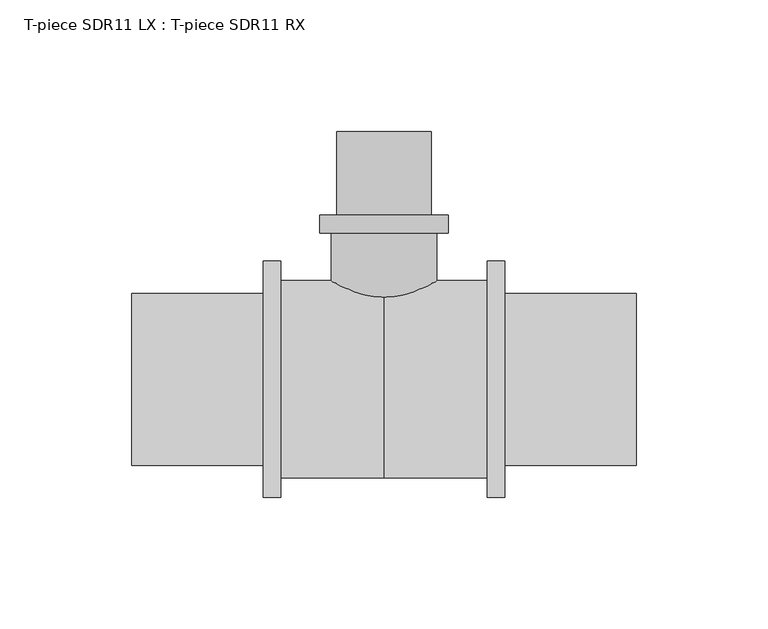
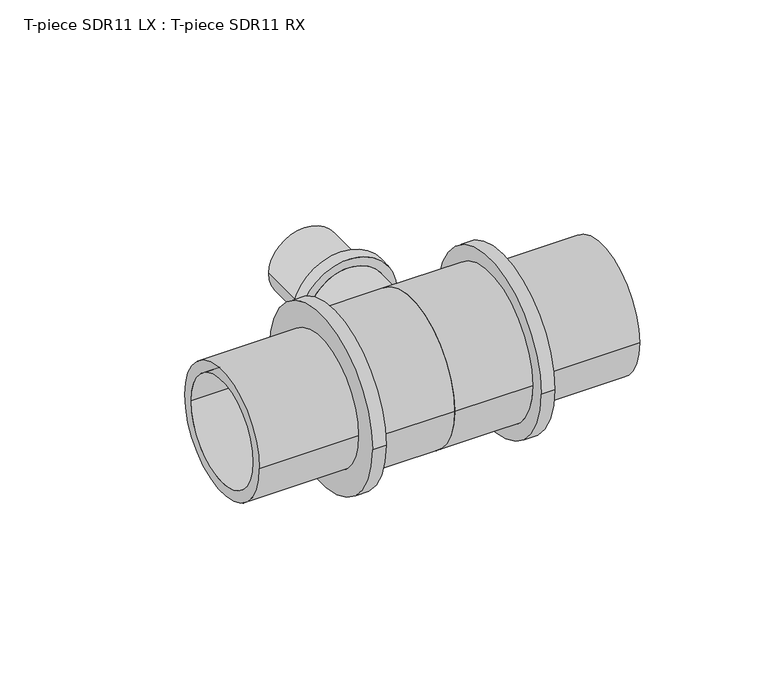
"""IFC4 building model written with IfcOpenShell, lengths in millimetres: pipe fitting geometry, T-piece SDR11 LX : T-piece SDR11 RX."""

from ifc_helpers import new_model, si_unit, point, frame, origin, place, context, project, spatial, polyline, circle_curve, ellipse_curve, trimmed, source, transform, mapped, element, save
from ifc_brep_helpers import plane_surface, cylinder_surface, revolved_surface, advanced_brep


def t_piece_sdr11_lx_t_piece_sdr11_rx_5838618a(model_context):
    return source(origin(), model_context, "Body", "AdvancedBrep", [
        advanced_brep(
        [(20.0, 1.425925, 0.0), (-20.0, 1.425925, 0.0), (-20.0, 55.7, 0.0), (20.0, 55.7, 0.0), (13.5, 94.3, 0.0), (-13.5, 94.3, 0.0), (-13.5, 0.0, 0.0), (13.5, 0.0, 0.0), (18.0, 62.4, 0.0), (-18.0, 62.4, 0.0), (-18.0, 94.3, 0.0), (18.0, 94.3, 0.0), (24.5, 55.7, 0.0), (-24.5, 55.7, 0.0), (-24.5, 62.4, 0.0), (24.5, 62.4, 0.0)],
        [
            (0, 1, circle_curve(frame((0.0, 1.425925, 0.0), z_axis=(0.0, 1.0, 0.0), x_axis=(-1.0, 0.0, 0.0)), 20.0)),
            (1, 2),
            (2, 3, circle_curve(frame((0.0, 55.7, 0.0), z_axis=(0.0, -1.0, 0.0), x_axis=(-1.0, 0.0, 0.0)), 20.0)),
            (3, 0),
            (4, 5, circle_curve(frame((0.0, 94.3, 0.0), z_axis=(0.0, 1.0, 0.0), x_axis=(-1.0, 0.0, 0.0)), 13.5)),
            (5, 6),
            (6, 7, circle_curve(frame((0.0, 0.0, 0.0), z_axis=(0.0, -1.0, 0.0), x_axis=(-1.0, 0.0, 0.0)), 13.5)),
            (7, 4),
            (8, 9, circle_curve(frame((0.0, 62.4, 0.0), z_axis=(0.0, 1.0, 0.0), x_axis=(-1.0, 0.0, 0.0)), 18.0)),
            (9, 10),
            (10, 11, circle_curve(frame((0.0, 94.3, 0.0), z_axis=(0.0, -1.0, 0.0), x_axis=(-1.0, 0.0, 0.0)), 18.0)),
            (11, 8),
            (12, 13, circle_curve(frame((0.0, 55.7, 0.0), z_axis=(0.0, 1.0, 0.0), x_axis=(-1.0, 0.0, 0.0)), 24.5)),
            (13, 14),
            (14, 15, circle_curve(frame((0.0, 62.4, 0.0), z_axis=(0.0, -1.0, 0.0), x_axis=(-1.0, 0.0, 0.0)), 24.5)),
            (15, 12),
            (12, 13, circle_curve(frame((0.0, 55.7, 0.0), z_axis=(0.0, -1.0, 0.0), x_axis=(1.0, 0.0, 0.0)), 24.5)),
            (2, 3, circle_curve(frame((0.0, 55.7, 0.0), z_axis=(0.0, 1.0, 0.0), x_axis=(1.0, 0.0, 0.0)), 20.0)),
            (1, 0, circle_curve(frame((0.0, 1.425925, 0.0), z_axis=(0.0, 1.0, 0.0), x_axis=(1.0, 0.0, 0.0)), 20.0)),
            (5, 4, circle_curve(frame((0.0, 94.3, 0.0), z_axis=(0.0, 1.0, 0.0), x_axis=(1.0, 0.0, 0.0)), 13.5)),
            (7, 6, circle_curve(frame((0.0, 0.0, 0.0), z_axis=(0.0, -1.0, 0.0), x_axis=(1.0, 0.0, 0.0)), 13.5)),
            (10, 11, circle_curve(frame((0.0, 94.3, 0.0), z_axis=(0.0, 1.0, 0.0), x_axis=(1.0, 0.0, 0.0)), 18.0)),
            (9, 8, circle_curve(frame((0.0, 62.4, 0.0), z_axis=(0.0, 1.0, 0.0), x_axis=(1.0, 0.0, 0.0)), 18.0)),
            (14, 15, circle_curve(frame((0.0, 62.4, 0.0), z_axis=(0.0, 1.0, 0.0), x_axis=(1.0, 0.0, 0.0)), 24.5)),
            (6, 1, circle_curve(frame((-8.7462802, 37.197475, 0.0), z_axis=(0.0, 0.0, -1.0), x_axis=(0.0, -1.0, 0.0)), 37.5)),
            (0, 7, circle_curve(frame((8.7462802, 37.197475, 0.0), z_axis=(0.0, 0.0, -1.0), x_axis=(0.0, -1.0, 0.0)), 37.5)),
        ],
        [
            cylinder_surface(frame((0.0, 0.0, 0.0), z_axis=(0.0, -1.0, 0.0), x_axis=(-1.0, 0.0, 0.0)), 20.0),
            revolved_surface(polyline([(-13.5, 0.0, 0.0), (-13.5, 94.3, 0.0)]), (0.0, 0.0, 0.0), (0.0, -1.0, 0.0)),
            cylinder_surface(frame((0.0, 0.0, 0.0), z_axis=(0.0, -1.0, 0.0), x_axis=(-1.0, 0.0, 0.0)), 18.0),
            cylinder_surface(frame((0.0, 0.0, 0.0), z_axis=(0.0, -1.0, 0.0), x_axis=(-1.0, 0.0, 0.0)), 24.5),
            plane_surface(frame((0.0, 55.7, 0.0), z_axis=(0.0, -1.0, 0.0), x_axis=(1.0, 0.0, 0.0))),
            cylinder_surface(frame((0.0, 0.0, 0.0), z_axis=(0.0, -1.0, 0.0), x_axis=(1.0, 0.0, 0.0)), 20.0),
            revolved_surface(polyline([(13.5, 0.0, 0.0), (13.5, 94.3, 0.0)]), (0.0, 0.0, 0.0), (0.0, -1.0, 0.0)),
            plane_surface(frame((0.0, 94.3, 0.0), z_axis=(0.0, 1.0, 0.0), x_axis=(1.0, 0.0, 0.0))),
            cylinder_surface(frame((0.0, 0.0, 0.0), z_axis=(0.0, -1.0, 0.0), x_axis=(1.0, 0.0, 0.0)), 18.0),
            plane_surface(frame((0.0, 62.4, 0.0), z_axis=(0.0, 1.0, 0.0), x_axis=(1.0, 0.0, 0.0))),
            cylinder_surface(frame((0.0, 0.0, 0.0), z_axis=(0.0, -1.0, 0.0), x_axis=(1.0, 0.0, 0.0)), 24.5),
            revolved_surface(trimmed(ellipse_curve(frame((-8.7462802, 37.197475, 0.0), z_axis=(0.0, 0.0, 1.0), x_axis=(0.0, -1.0, 0.0)), 37.5, 37.5), [point((-20.0, 1.425925, 0.0))], [point((-13.5, 0.0, 0.0))], True, "CARTESIAN"), (0.0, 0.0, 0.0), (0.0, -1.0, 0.0)),
            revolved_surface(trimmed(ellipse_curve(frame((8.7462802, 37.197475, 0.0), z_axis=(0.0, 0.0, -1.0), x_axis=(0.0, -1.0, 0.0)), 37.5, 37.5), [point((20.0, 1.425925, 0.0))], [point((13.5, 0.0, 0.0))], True, "CARTESIAN"), (0.0, 0.0, 0.0), (0.0, -1.0, 0.0)),
        ],
        [
            (0, [[1, 2, 3, 4]]),
            (1, [[5, 6, 7, 8]]),
            (2, [[9, 10, 11, 12]]),
            (3, [[13, 14, 15, 16]]),
            (4, [[17, -13], [18, -3]]),
            (5, [[19, -4, -18, -2]]),
            (6, [[20, -8, 21, -6]]),
            (7, [[22, -11], [-20, -5]]),
            (8, [[23, -12, -22, -10]]),
            (9, [[24, -15], [-23, -9]]),
            (10, [[-17, -16, -24, -14]]),
            (11, [[-7, 25, -1, 26]]),
            (12, [[-21, -26, -19, -25]]),
        ],
    ),
        advanced_brep(
        [(39.2, 37.5, 0.0), (39.2, -37.5, 0.0), (0.0, -37.5, 0.0), (0.0, 37.5, 0.0), (0.0, 27.0, 0.0), (0.0, -27.0, 0.0), (96.0, -27.0, 0.0), (96.0, 27.0, 0.0), (96.0, 32.7, 0.0), (96.0, -32.7, 0.0), (46.0, -32.7, 0.0), (46.0, 32.7, 0.0), (46.0, 45.0, 0.0), (46.0, -45.0, 0.0), (39.2, -45.0, 0.0), (39.2, 45.0, 0.0)],
        [
            (0, 1, circle_curve(frame((39.2, 0.0, 0.0), z_axis=(-1.0, 0.0, 0.0), x_axis=(0.0, -1.0, 0.0)), 37.5)),
            (1, 2),
            (2, 3, circle_curve(frame((0.0, 0.0, 0.0), z_axis=(1.0, 0.0, 0.0), x_axis=(0.0, -1.0, 0.0)), 37.5)),
            (3, 0),
            (4, 5, circle_curve(frame((0.0, 0.0, 0.0), z_axis=(-1.0, 0.0, 0.0), x_axis=(0.0, -1.0, 0.0)), 27.0)),
            (5, 6),
            (6, 7, circle_curve(frame((96.0, 0.0, 0.0), z_axis=(1.0, 0.0, 0.0), x_axis=(0.0, -1.0, 0.0)), 27.0)),
            (7, 4),
            (8, 9, circle_curve(frame((96.0, 0.0, 0.0), z_axis=(-1.0, 0.0, 0.0), x_axis=(0.0, -1.0, 0.0)), 32.7)),
            (9, 10),
            (10, 11, circle_curve(frame((46.0, 0.0, 0.0), z_axis=(1.0, 0.0, 0.0), x_axis=(0.0, -1.0, 0.0)), 32.7)),
            (11, 8),
            (12, 13, circle_curve(frame((46.0, 0.0, 0.0), z_axis=(-1.0, 0.0, 0.0), x_axis=(0.0, -1.0, 0.0)), 45.0)),
            (13, 14),
            (14, 15, circle_curve(frame((39.2, 0.0, 0.0), z_axis=(1.0, 0.0, 0.0), x_axis=(0.0, -1.0, 0.0)), 45.0)),
            (15, 12),
            (14, 15, circle_curve(frame((39.2, 0.0, 0.0), z_axis=(-1.0, 0.0, 0.0), x_axis=(0.0, 1.0, 0.0)), 45.0)),
            (0, 1, circle_curve(frame((39.2, 0.0, 0.0), z_axis=(1.0, 0.0, 0.0), x_axis=(0.0, 1.0, 0.0)), 37.5)),
            (3, 2, circle_curve(frame((0.0, 0.0, 0.0), z_axis=(1.0, 0.0, 0.0), x_axis=(0.0, 1.0, 0.0)), 37.5)),
            (4, 5, circle_curve(frame((0.0, 0.0, 0.0), z_axis=(1.0, 0.0, 0.0), x_axis=(0.0, 1.0, 0.0)), 27.0)),
            (7, 6, circle_curve(frame((96.0, 0.0, 0.0), z_axis=(1.0, 0.0, 0.0), x_axis=(0.0, 1.0, 0.0)), 27.0)),
            (8, 9, circle_curve(frame((96.0, 0.0, 0.0), z_axis=(1.0, 0.0, 0.0), x_axis=(0.0, 1.0, 0.0)), 32.7)),
            (11, 10, circle_curve(frame((46.0, 0.0, 0.0), z_axis=(1.0, 0.0, 0.0), x_axis=(0.0, 1.0, 0.0)), 32.7)),
            (12, 13, circle_curve(frame((46.0, 0.0, 0.0), z_axis=(1.0, 0.0, 0.0), x_axis=(0.0, 1.0, 0.0)), 45.0)),
        ],
        [
            cylinder_surface(frame((0.0, 0.0, 0.0), z_axis=(1.0, 0.0, 0.0), x_axis=(0.0, -1.0, 0.0)), 37.5),
            revolved_surface(polyline([(96.0, -27.0, 0.0), (0.0, -27.0, 0.0)]), (0.0, 0.0, 0.0), (1.0, 0.0, 0.0)),
            cylinder_surface(frame((0.0, 0.0, 0.0), z_axis=(1.0, 0.0, 0.0), x_axis=(0.0, -1.0, 0.0)), 32.7),
            cylinder_surface(frame((0.0, 0.0, 0.0), z_axis=(1.0, 0.0, 0.0), x_axis=(0.0, -1.0, 0.0)), 45.0),
            plane_surface(frame((39.2, 0.0, 0.0), z_axis=(-1.0, 0.0, 0.0), x_axis=(0.0, 1.0, 0.0))),
            cylinder_surface(frame((0.0, 0.0, 0.0), z_axis=(1.0, 0.0, 0.0), x_axis=(0.0, 1.0, 0.0)), 37.5),
            plane_surface(frame((0.0, 0.0, 0.0), z_axis=(-1.0, 0.0, 0.0), x_axis=(0.0, 1.0, 0.0))),
            revolved_surface(polyline([(96.0, 27.0, 0.0), (0.0, 27.0, 0.0)]), (0.0, 0.0, 0.0), (1.0, 0.0, 0.0)),
            plane_surface(frame((96.0, 0.0, 0.0), z_axis=(1.0, 0.0, 0.0), x_axis=(0.0, 1.0, 0.0))),
            cylinder_surface(frame((0.0, 0.0, 0.0), z_axis=(1.0, 0.0, 0.0), x_axis=(0.0, 1.0, 0.0)), 32.7),
            plane_surface(frame((46.0, 0.0, 0.0), z_axis=(1.0, 0.0, 0.0), x_axis=(0.0, 1.0, 0.0))),
            cylinder_surface(frame((0.0, 0.0, 0.0), z_axis=(1.0, 0.0, 0.0), x_axis=(0.0, 1.0, 0.0)), 45.0),
        ],
        [
            (0, [[1, 2, 3, 4]]),
            (1, [[5, 6, 7, 8]]),
            (2, [[9, 10, 11, 12]]),
            (3, [[13, 14, 15, 16]]),
            (4, [[17, -15], [18, -1]]),
            (5, [[-18, -4, 19, -2]]),
            (6, [[-19, -3], [20, -5]]),
            (7, [[-20, -8, 21, -6]]),
            (8, [[22, -9], [-21, -7]]),
            (9, [[-22, -12, 23, -10]]),
            (10, [[24, -13], [-23, -11]]),
            (11, [[-24, -16, -17, -14]]),
        ],
    ),
        advanced_brep(
        [(0.0, 37.5, 0.0), (0.0, -37.5, 0.0), (-39.2, -37.5, 0.0), (-39.2, 37.5, 0.0), (-96.0, 27.0, 0.0), (-96.0, -27.0, 0.0), (0.0, -27.0, 0.0), (0.0, 27.0, 0.0), (-46.0, 32.7, 0.0), (-46.0, -32.7, 0.0), (-96.0, -32.7, 0.0), (-96.0, 32.7, 0.0), (-39.2, 45.0, 0.0), (-39.2, -45.0, 0.0), (-46.0, -45.0, 0.0), (-46.0, 45.0, 0.0)],
        [
            (0, 1, circle_curve(frame((0.0, 0.0, 0.0), z_axis=(-1.0, 0.0, 0.0), x_axis=(0.0, -1.0, 0.0)), 37.5)),
            (1, 2),
            (2, 3, circle_curve(frame((-39.2, 0.0, 0.0), z_axis=(1.0, 0.0, 0.0), x_axis=(0.0, -1.0, 0.0)), 37.5)),
            (3, 0),
            (4, 5, circle_curve(frame((-96.0, 0.0, 0.0), z_axis=(-1.0, 0.0, 0.0), x_axis=(0.0, -1.0, 0.0)), 27.0)),
            (5, 6),
            (6, 7, circle_curve(frame((0.0, 0.0, 0.0), z_axis=(1.0, 0.0, 0.0), x_axis=(0.0, -1.0, 0.0)), 27.0)),
            (7, 4),
            (8, 9, circle_curve(frame((-46.0, 0.0, 0.0), z_axis=(-1.0, 0.0, 0.0), x_axis=(0.0, -1.0, 0.0)), 32.7)),
            (9, 10),
            (10, 11, circle_curve(frame((-96.0, 0.0, 0.0), z_axis=(1.0, 0.0, 0.0), x_axis=(0.0, -1.0, 0.0)), 32.7)),
            (11, 8),
            (12, 13, circle_curve(frame((-39.2, 0.0, 0.0), z_axis=(-1.0, 0.0, 0.0), x_axis=(0.0, -1.0, 0.0)), 45.0)),
            (13, 14),
            (14, 15, circle_curve(frame((-46.0, 0.0, 0.0), z_axis=(1.0, 0.0, 0.0), x_axis=(0.0, -1.0, 0.0)), 45.0)),
            (15, 12),
            (12, 13, circle_curve(frame((-39.2, 0.0, 0.0), z_axis=(1.0, 0.0, 0.0), x_axis=(0.0, 1.0, 0.0)), 45.0)),
            (2, 3, circle_curve(frame((-39.2, 0.0, 0.0), z_axis=(-1.0, 0.0, 0.0), x_axis=(0.0, 1.0, 0.0)), 37.5)),
            (1, 0, circle_curve(frame((0.0, 0.0, 0.0), z_axis=(-1.0, 0.0, 0.0), x_axis=(0.0, 1.0, 0.0)), 37.5)),
            (6, 7, circle_curve(frame((0.0, 0.0, 0.0), z_axis=(-1.0, 0.0, 0.0), x_axis=(0.0, 1.0, 0.0)), 27.0)),
            (5, 4, circle_curve(frame((-96.0, 0.0, 0.0), z_axis=(-1.0, 0.0, 0.0), x_axis=(0.0, 1.0, 0.0)), 27.0)),
            (10, 11, circle_curve(frame((-96.0, 0.0, 0.0), z_axis=(-1.0, 0.0, 0.0), x_axis=(0.0, 1.0, 0.0)), 32.7)),
            (9, 8, circle_curve(frame((-46.0, 0.0, 0.0), z_axis=(-1.0, 0.0, 0.0), x_axis=(0.0, 1.0, 0.0)), 32.7)),
            (14, 15, circle_curve(frame((-46.0, 0.0, 0.0), z_axis=(-1.0, 0.0, 0.0), x_axis=(0.0, 1.0, 0.0)), 45.0)),
        ],
        [
            cylinder_surface(frame((0.0, 0.0, 0.0), z_axis=(1.0, 0.0, 0.0), x_axis=(0.0, -1.0, 0.0)), 37.5),
            revolved_surface(polyline([(0.0, -27.0, 0.0), (-96.0, -27.0, 0.0)]), (0.0, 0.0, 0.0), (1.0, 0.0, 0.0)),
            cylinder_surface(frame((0.0, 0.0, 0.0), z_axis=(1.0, 0.0, 0.0), x_axis=(0.0, -1.0, 0.0)), 32.7),
            cylinder_surface(frame((0.0, 0.0, 0.0), z_axis=(1.0, 0.0, 0.0), x_axis=(0.0, -1.0, 0.0)), 45.0),
            plane_surface(frame((-39.2, 0.0, 0.0), z_axis=(1.0, 0.0, 0.0), x_axis=(0.0, 1.0, 0.0))),
            cylinder_surface(frame((0.0, 0.0, 0.0), z_axis=(1.0, 0.0, 0.0), x_axis=(0.0, 1.0, 0.0)), 37.5),
            plane_surface(frame((0.0, 0.0, 0.0), z_axis=(1.0, 0.0, 0.0), x_axis=(0.0, 1.0, 0.0))),
            revolved_surface(polyline([(0.0, 27.0, 0.0), (-96.0, 27.0, 0.0)]), (0.0, 0.0, 0.0), (1.0, 0.0, 0.0)),
            plane_surface(frame((-96.0, 0.0, 0.0), z_axis=(-1.0, 0.0, 0.0), x_axis=(0.0, 1.0, 0.0))),
            cylinder_surface(frame((0.0, 0.0, 0.0), z_axis=(1.0, 0.0, 0.0), x_axis=(0.0, 1.0, 0.0)), 32.7),
            plane_surface(frame((-46.0, 0.0, 0.0), z_axis=(-1.0, 0.0, 0.0), x_axis=(0.0, 1.0, 0.0))),
            cylinder_surface(frame((0.0, 0.0, 0.0), z_axis=(1.0, 0.0, 0.0), x_axis=(0.0, 1.0, 0.0)), 45.0),
        ],
        [
            (0, [[1, 2, 3, 4]]),
            (1, [[5, 6, 7, 8]]),
            (2, [[9, 10, 11, 12]]),
            (3, [[13, 14, 15, 16]]),
            (4, [[17, -13], [18, -3]]),
            (5, [[19, -4, -18, -2]]),
            (6, [[-19, -1], [20, -7]]),
            (7, [[21, -8, -20, -6]]),
            (8, [[22, -11], [-21, -5]]),
            (9, [[23, -12, -22, -10]]),
            (10, [[24, -15], [-23, -9]]),
            (11, [[-17, -16, -24, -14]]),
        ],
    ),
    ])


if __name__ == "__main__":
    model = new_model("IFC4")
    model_context = context("Model", 3, world=origin())
    ifc_project = project(units=[si_unit("LENGTHUNIT", "METRE", prefix="MILLI")], contexts=[model_context])
    site = spatial("IfcSite", under=ifc_project)
    building = spatial("IfcBuilding", under=site)
    placement = place(None, origin())
    t_piece_sdr11_lx_t_piece_sdr11_rx_shape = t_piece_sdr11_lx_t_piece_sdr11_rx_5838618a(model_context)
    element("IfcPipeFitting", 1, ObjectType="T-piece SDR11 LX : T-piece SDR11 RX", at=placement, inside=building, context=model_context, shape_type="MappedRepresentation", body=[
        mapped(t_piece_sdr11_lx_t_piece_sdr11_rx_shape, transform((0.0, 0.0, 0.0), x_axis=(1.0, 0.0, 0.0), y_axis=(0.0, 1.0, 0.0), z_axis=(0.0, 0.0, 1.0))),
    ])
    save(model, "model.ifc")
